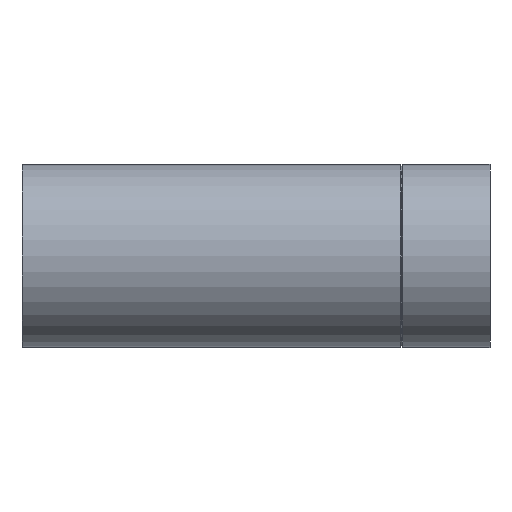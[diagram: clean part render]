
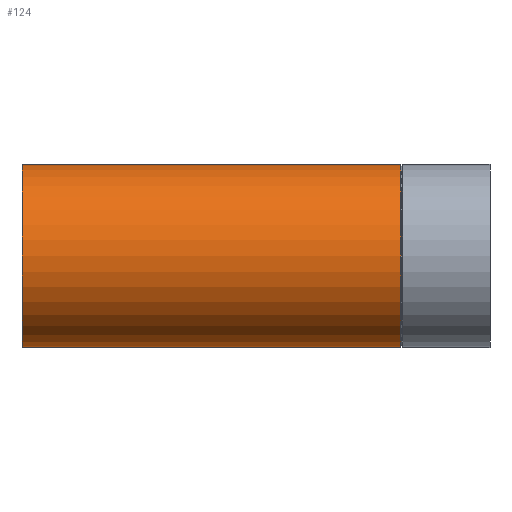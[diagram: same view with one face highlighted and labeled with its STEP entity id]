
A CAD part, left-side view. The second image highlights one B-rep face of the part: STEP entity #124.
In plain terms, the highlighted cylindrical face has radius 67.5 mm (diameter 135 mm), a full revolution.
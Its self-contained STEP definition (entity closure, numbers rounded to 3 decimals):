
#16=B_SPLINE_CURVE_WITH_KNOTS($,3,(#205,#206,#207,#208,#209,#210,#211,#212,
#213,#214,#215,#216,#217,#218,#219,#220,#221,#222,#223,#224,#225,#226,#227,
#228,#229,#230,#231,#232,#233,#234,#235,#236,#237,#238,#239,#240,#241,#242,
#243,#244,#245,#246,#247,#248,#249,#250,#251,#252,#253,#254,#255,#256,#257,
#258,#259,#260,#261,#262,#263,#264,#265,#266,#267,#268,#269,#270,#271,#272,
#273,#274,#275,#276,#277,#278,#279,#280,#281,#282,#283,#284,#285,#286),
 .UNSPECIFIED.,.T.,.F.,(4,2,2,2,2,2,2,2,2,2,2,2,2,2,2,2,2,2,2,2,2,2,2,2,
2,2,2,2,2,2,2,2,2,2,2,2,2,2,2,2,4),(0.,1.956,3.911,6.025,
7.082,8.139,9.494,10.171,10.849,
11.654,12.057,12.459,12.862,13.265,
14.07,14.747,15.425,16.78,17.837,
18.894,21.007,22.963,24.919,26.05,
26.616,27.182,28.314,29.445,30.51,
31.574,32.639,33.703,34.768,35.832,
36.897,37.961,39.093,40.225,40.79,
41.356,42.488),.UNSPECIFIED.);
#18=CYLINDRICAL_SURFACE($,#140,67.5);
#25=FACE_BOUND($,#49,.T.);
#26=FACE_BOUND($,#50,.T.);
#27=FACE_BOUND($,#51,.T.);
#49=EDGE_LOOP($,(#102));
#50=EDGE_LOOP($,(#103));
#51=EDGE_LOOP($,(#104));
#69=CIRCLE($,#139,67.5);
#70=CIRCLE($,#141,67.5);
#78=VERTEX_POINT($,#201);
#79=VERTEX_POINT($,#204);
#80=VERTEX_POINT($,#287);
#89=EDGE_CURVE($,#78,#78,#69,.T.);
#90=EDGE_CURVE($,#79,#79,#16,.T.);
#91=EDGE_CURVE($,#80,#80,#70,.T.);
#102=ORIENTED_EDGE($,*,*,#90,.T.);
#103=ORIENTED_EDGE($,*,*,#91,.T.);
#104=ORIENTED_EDGE($,*,*,#89,.T.);
#124=ADVANCED_FACE($,(#25,#26,#27),#18,.T.);
#139=AXIS2_PLACEMENT_3D($,#202,#164,#165);
#140=AXIS2_PLACEMENT_3D($,#203,#166,#167);
#141=AXIS2_PLACEMENT_3D($,#288,#168,#169);
#164=DIRECTION('center_axis',(0.,1.,0.));
#165=DIRECTION('ref_axis',(1.,0.,0.));
#166=DIRECTION('center_axis',(0.,1.,0.));
#167=DIRECTION('ref_axis',(1.,0.,0.));
#168=DIRECTION('center_axis',(0.,-1.,0.));
#169=DIRECTION('ref_axis',(1.,0.,0.));
#201=CARTESIAN_POINT('',(67.5,65.779,0.));
#202=CARTESIAN_POINT('Origin',(0.,65.779,0.));
#203=CARTESIAN_POINT('Origin',(0.,0.,0.));
#204=CARTESIAN_POINT('',(39.131,154.131,55.));
#205=CARTESIAN_POINT('Ctrl Pts',(39.131,154.131,55.));
#206=CARTESIAN_POINT('Ctrl Pts',(39.131,160.65,55.));
#207=CARTESIAN_POINT('Ctrl Pts',(39.97,167.685,54.417));
#208=CARTESIAN_POINT('Ctrl Pts',(42.497,181.548,52.467));
#209=CARTESIAN_POINT('Ctrl Pts',(44.166,188.378,51.095));
#210=CARTESIAN_POINT('Ctrl Pts',(47.59,201.116,47.93));
#211=CARTESIAN_POINT('Ctrl Pts',(49.72,208.243,45.782));
#212=CARTESIAN_POINT('Ctrl Pts',(53.007,218.605,41.826));
#213=CARTESIAN_POINT('Ctrl Pts',(54.117,222.007,40.387));
#214=CARTESIAN_POINT('Ctrl Pts',(56.289,228.532,37.301));
#215=CARTESIAN_POINT('Ctrl Pts',(57.35,231.656,35.653));
#216=CARTESIAN_POINT('Ctrl Pts',(59.633,238.291,31.728));
#217=CARTESIAN_POINT('Ctrl Pts',(61.016,242.24,29.058));
#218=CARTESIAN_POINT('Ctrl Pts',(62.936,247.65,24.454));
#219=CARTESIAN_POINT('Ctrl Pts',(63.551,249.37,22.821));
#220=CARTESIAN_POINT('Ctrl Pts',(64.679,252.513,19.393));
#221=CARTESIAN_POINT('Ctrl Pts',(65.193,253.937,17.598));
#222=CARTESIAN_POINT('Ctrl Pts',(66.163,256.614,13.558));
#223=CARTESIAN_POINT('Ctrl Pts',(66.656,257.968,10.99));
#224=CARTESIAN_POINT('Ctrl Pts',(67.159,259.348,6.914));
#225=CARTESIAN_POINT('Ctrl Pts',(67.289,259.703,5.518));
#226=CARTESIAN_POINT('Ctrl Pts',(67.459,260.17,2.732));
#227=CARTESIAN_POINT('Ctrl Pts',(67.5,260.282,1.342));
#228=CARTESIAN_POINT('Ctrl Pts',(67.5,260.282,-1.342));
#229=CARTESIAN_POINT('Ctrl Pts',(67.459,260.17,-2.732));
#230=CARTESIAN_POINT('Ctrl Pts',(67.289,259.703,-5.518));
#231=CARTESIAN_POINT('Ctrl Pts',(67.159,259.348,-6.914));
#232=CARTESIAN_POINT('Ctrl Pts',(66.656,257.968,-10.99));
#233=CARTESIAN_POINT('Ctrl Pts',(66.163,256.614,-13.558));
#234=CARTESIAN_POINT('Ctrl Pts',(65.193,253.937,-17.598));
#235=CARTESIAN_POINT('Ctrl Pts',(64.679,252.513,-19.393));
#236=CARTESIAN_POINT('Ctrl Pts',(63.551,249.37,-22.821));
#237=CARTESIAN_POINT('Ctrl Pts',(62.936,247.65,-24.454));
#238=CARTESIAN_POINT('Ctrl Pts',(61.016,242.24,-29.058));
#239=CARTESIAN_POINT('Ctrl Pts',(59.633,238.291,-31.728));
#240=CARTESIAN_POINT('Ctrl Pts',(57.35,231.656,-35.653));
#241=CARTESIAN_POINT('Ctrl Pts',(56.289,228.532,-37.301));
#242=CARTESIAN_POINT('Ctrl Pts',(54.117,222.007,-40.387));
#243=CARTESIAN_POINT('Ctrl Pts',(53.007,218.605,-41.826));
#244=CARTESIAN_POINT('Ctrl Pts',(49.72,208.243,-45.782));
#245=CARTESIAN_POINT('Ctrl Pts',(47.59,201.116,-47.93));
#246=CARTESIAN_POINT('Ctrl Pts',(44.166,188.378,-51.095));
#247=CARTESIAN_POINT('Ctrl Pts',(42.497,181.548,-52.467));
#248=CARTESIAN_POINT('Ctrl Pts',(39.97,167.685,-54.417));
#249=CARTESIAN_POINT('Ctrl Pts',(39.131,160.65,-55.));
#250=CARTESIAN_POINT('Ctrl Pts',(39.131,150.359,-55.));
#251=CARTESIAN_POINT('Ctrl Pts',(39.413,146.439,-54.806));
#252=CARTESIAN_POINT('Ctrl Pts',(40.465,140.728,-54.028));
#253=CARTESIAN_POINT('Ctrl Pts',(40.919,138.851,-53.688));
#254=CARTESIAN_POINT('Ctrl Pts',(42.034,135.212,-52.82));
#255=CARTESIAN_POINT('Ctrl Pts',(42.694,133.45,-52.292));
#256=CARTESIAN_POINT('Ctrl Pts',(44.929,128.403,-50.412));
#257=CARTESIAN_POINT('Ctrl Pts',(46.778,125.341,-48.745));
#258=CARTESIAN_POINT('Ctrl Pts',(50.685,119.976,-44.668));
#259=CARTESIAN_POINT('Ctrl Pts',(52.734,117.666,-42.259));
#260=CARTESIAN_POINT('Ctrl Pts',(56.416,113.886,-37.185));
#261=CARTESIAN_POINT('Ctrl Pts',(58.18,112.26,-34.396));
#262=CARTESIAN_POINT('Ctrl Pts',(61.375,109.479,-28.305));
#263=CARTESIAN_POINT('Ctrl Pts',(62.805,108.321,-25.002));
#264=CARTESIAN_POINT('Ctrl Pts',(65.131,106.488,-18.095));
#265=CARTESIAN_POINT('Ctrl Pts',(66.03,105.811,-14.485));
#266=CARTESIAN_POINT('Ctrl Pts',(67.215,104.926,-7.212));
#267=CARTESIAN_POINT('Ctrl Pts',(67.5,104.718,-3.548));
#268=CARTESIAN_POINT('Ctrl Pts',(67.5,104.718,3.548));
#269=CARTESIAN_POINT('Ctrl Pts',(67.215,104.926,7.212));
#270=CARTESIAN_POINT('Ctrl Pts',(66.03,105.811,14.485));
#271=CARTESIAN_POINT('Ctrl Pts',(65.131,106.488,18.095));
#272=CARTESIAN_POINT('Ctrl Pts',(62.805,108.321,25.002));
#273=CARTESIAN_POINT('Ctrl Pts',(61.375,109.479,28.305));
#274=CARTESIAN_POINT('Ctrl Pts',(58.18,112.26,34.396));
#275=CARTESIAN_POINT('Ctrl Pts',(56.416,113.886,37.185));
#276=CARTESIAN_POINT('Ctrl Pts',(52.734,117.666,42.259));
#277=CARTESIAN_POINT('Ctrl Pts',(50.685,119.976,44.668));
#278=CARTESIAN_POINT('Ctrl Pts',(46.778,125.341,48.745));
#279=CARTESIAN_POINT('Ctrl Pts',(44.929,128.403,50.412));
#280=CARTESIAN_POINT('Ctrl Pts',(42.694,133.45,52.292));
#281=CARTESIAN_POINT('Ctrl Pts',(42.034,135.212,52.82));
#282=CARTESIAN_POINT('Ctrl Pts',(40.919,138.851,53.688));
#283=CARTESIAN_POINT('Ctrl Pts',(40.465,140.728,54.028));
#284=CARTESIAN_POINT('Ctrl Pts',(39.413,146.439,54.806));
#285=CARTESIAN_POINT('Ctrl Pts',(39.131,150.359,55.));
#286=CARTESIAN_POINT('Ctrl Pts',(39.131,154.131,55.));
#287=CARTESIAN_POINT('',(-67.5,345.,0.));
#288=CARTESIAN_POINT('Origin',(0.,345.,0.));
